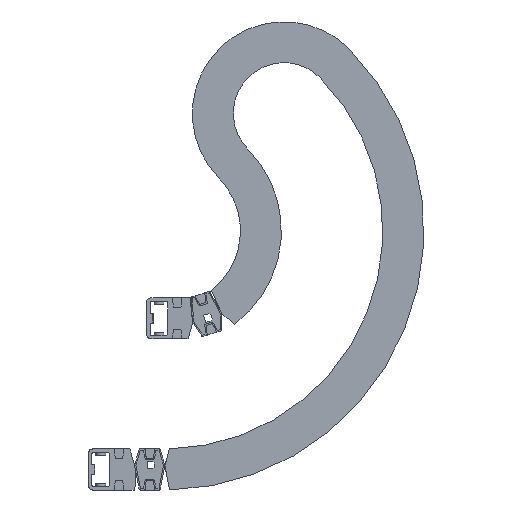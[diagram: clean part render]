
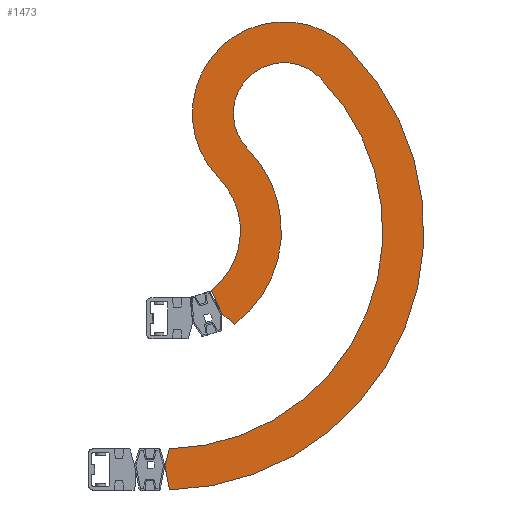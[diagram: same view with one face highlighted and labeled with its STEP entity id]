
A CAD part, front view. The second image highlights one B-rep face of the part: STEP entity #1473.
In plain terms, the highlighted planar face has unit normal (0, -1, 0).
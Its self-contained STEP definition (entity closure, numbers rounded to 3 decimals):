
#1473 = ADVANCED_FACE( '', ( #2933 ), #2934, .F. );
#2933 = FACE_OUTER_BOUND( '', #4359, .T. );
#2934 = PLANE( '', #4360 );
#4359 = EDGE_LOOP( '', ( #8838, #8839, #8840, #8841, #8842, #8843, #8844, #8845, #8846, #8847 ) );
#4360 = AXIS2_PLACEMENT_3D( '', #8848, #8849, #8850 );
#8838 = ORIENTED_EDGE( '', *, *, #9891, .F. );
#8839 = ORIENTED_EDGE( '', *, *, #10222, .F. );
#8840 = ORIENTED_EDGE( '', *, *, #9930, .F. );
#8841 = ORIENTED_EDGE( '', *, *, #10582, .T. );
#8842 = ORIENTED_EDGE( '', *, *, #10059, .F. );
#8843 = ORIENTED_EDGE( '', *, *, #10214, .F. );
#8844 = ORIENTED_EDGE( '', *, *, #9292, .F. );
#8845 = ORIENTED_EDGE( '', *, *, #9301, .T. );
#8846 = ORIENTED_EDGE( '', *, *, #9957, .T. );
#8847 = ORIENTED_EDGE( '', *, *, #9963, .F. );
#8848 = CARTESIAN_POINT( '', ( 0., -29.5, 0. ) );
#8849 = DIRECTION( '', ( 0., 1., 0. ) );
#8850 = DIRECTION( '', ( 0., 0., 1. ) );
#9292 = EDGE_CURVE( '', #11417, #11418, #11419, .T. );
#9301 = EDGE_CURVE( '', #11417, #11432, #11433, .T. );
#9891 = EDGE_CURVE( '', #12367, #12369, #12370, .T. );
#9930 = EDGE_CURVE( '', #12424, #12425, #12426, .T. );
#9957 = EDGE_CURVE( '', #11432, #12464, #12465, .T. );
#9963 = EDGE_CURVE( '', #12369, #12464, #12473, .T. );
#10059 = EDGE_CURVE( '', #12606, #12608, #12609, .T. );
#10214 = EDGE_CURVE( '', #11418, #12606, #12814, .T. );
#10222 = EDGE_CURVE( '', #12425, #12367, #12823, .T. );
#10582 = EDGE_CURVE( '', #12424, #12608, #13252, .T. );
#11417 = VERTEX_POINT( '', #14395 );
#11418 = VERTEX_POINT( '', #14396 );
#11419 = CIRCLE( '', #14397, 108. );
#11432 = VERTEX_POINT( '', #14415 );
#11433 = CIRCLE( '', #14416, 47. );
#12367 = VERTEX_POINT( '', #15736 );
#12369 = VERTEX_POINT( '', #15739 );
#12370 = LINE( '', #15740, #15741 );
#12424 = VERTEX_POINT( '', #15816 );
#12425 = VERTEX_POINT( '', #15817 );
#12426 = CIRCLE( '', #15818, 85. );
#12464 = VERTEX_POINT( '', #15874 );
#12465 = CIRCLE( '', #15875, 202. );
#12473 = LINE( '', #15887, #15888 );
#12606 = VERTEX_POINT( '', #16080 );
#12608 = VERTEX_POINT( '', #16083 );
#12609 = LINE( '', #16084, #16085 );
#12814 = LINE( '', #16383, #16384 );
#12823 = CIRCLE( '', #16396, 240. );
#13252 = CIRCLE( '', #17021, 70. );
#14395 = CARTESIAN_POINT( '', ( 76.97, -29.5, 75.76 ) );
#14396 = CARTESIAN_POINT( '', ( 64.714, -29.5, -86.465 ) );
#14397 = AXIS2_PLACEMENT_3D( '', #17585, #17586, #17587 );
#14415 = CARTESIAN_POINT( '', ( 143.963, -29.5, 141.7 ) );
#14416 = AXIS2_PLACEMENT_3D( '', #17596, #17597, #17598 );
#15736 = CARTESIAN_POINT( '', ( 4.374, -29.5, -239.96 ) );
#15739 = CARTESIAN_POINT( '', ( 0., -29.5, -217. ) );
#15740 = CARTESIAN_POINT( '', ( 4.374, -29.5, -239.96 ) );
#15741 = VECTOR( '', #18262, 1000. );
#15816 = CARTESIAN_POINT( '', ( 49.888, -29.5, 49.104 ) );
#15817 = CARTESIAN_POINT( '', ( 171.045, -29.5, 168.356 ) );
#15818 = AXIS2_PLACEMENT_3D( '', #18302, #18303, #18304 );
#15874 = CARTESIAN_POINT( '', ( 4.396, -29.5, -201.952 ) );
#15875 = AXIS2_PLACEMENT_3D( '', #18329, #18330, #18331 );
#15887 = CARTESIAN_POINT( '', ( 0., -29.5, -217. ) );
#15888 = VECTOR( '', #18336, 1000. );
#16080 = CARTESIAN_POINT( '', ( 52.677, -29.5, -76.643 ) );
#16083 = CARTESIAN_POINT( '', ( 43.204, -29.5, -55.077 ) );
#16084 = CARTESIAN_POINT( '', ( 52.677, -29.5, -76.643 ) );
#16085 = VECTOR( '', #18430, 1000. );
#16383 = CARTESIAN_POINT( '', ( 64.714, -29.5, -86.465 ) );
#16384 = VECTOR( '', #18578, 1000. );
#16396 = AXIS2_PLACEMENT_3D( '', #18582, #18583, #18584 );
#17021 = AXIS2_PLACEMENT_3D( '', #18859, #18860, #18861 );
#17585 = CARTESIAN_POINT( '', ( 0., -29.5, 0. ) );
#17586 = DIRECTION( '', ( 0., 1., 0. ) );
#17587 = DIRECTION( '', ( 1., 0., 0. ) );
#17596 = CARTESIAN_POINT( '', ( 110.466, -29.5, 108.73 ) );
#17597 = DIRECTION( '', ( 0., 1., 0. ) );
#17598 = DIRECTION( '', ( 1., 0., 0. ) );
#18262 = DIRECTION( '', ( -0.187, 0., 0.982 ) );
#18302 = CARTESIAN_POINT( '', ( 110.466, -29.5, 108.73 ) );
#18303 = DIRECTION( '', ( 0., 1., 0. ) );
#18304 = DIRECTION( '', ( 1., 0., 0. ) );
#18329 = CARTESIAN_POINT( '', ( 0., -29.5, 0. ) );
#18330 = DIRECTION( '', ( 0., 1., 0. ) );
#18331 = DIRECTION( '', ( 1., 0., 0. ) );
#18336 = DIRECTION( '', ( 0.28, 0., 0.96 ) );
#18430 = DIRECTION( '', ( -0.402, 0., 0.916 ) );
#18578 = DIRECTION( '', ( -0.775, 0., 0.632 ) );
#18582 = CARTESIAN_POINT( '', ( 0., -29.5, 0. ) );
#18583 = DIRECTION( '', ( 0., 1., 0. ) );
#18584 = DIRECTION( '', ( 1., 0., 0. ) );
#18859 = CARTESIAN_POINT( '', ( 0., -29.5, 0. ) );
#18860 = DIRECTION( '', ( 0., 1., 0. ) );
#18861 = DIRECTION( '', ( 1., 0., 0. ) );
